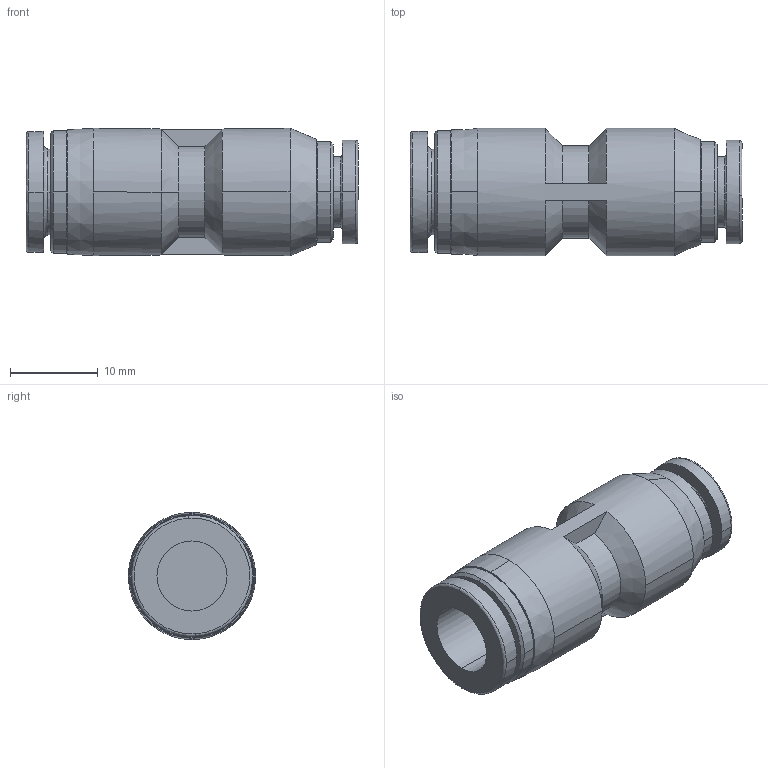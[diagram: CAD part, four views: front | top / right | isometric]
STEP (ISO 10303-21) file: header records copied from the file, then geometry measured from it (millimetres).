
FILE_DESCRIPTION (( 'STEP AP214' ), '1' );
FILE_NAME ('APG8-6.STEP', '2019-12-05T08:28:32', ( '微软用户' ), ( '微软中国' ), 'SwSTEP 2.0', 'SolidWorks 2016', '' );
FILE_SCHEMA (( 'AUTOMOTIVE_DESIGN' ));
Length unit declared in the file: millimetre
Products named in the file (1): APG8-6
Bounding box: 37.85 x 14.5 x 14.5 mm (x, y, z)
Volume: 3944.8 mm3; surface area: 2971.5 mm2
Topology: 1 solids, 1 shells, 62 faces, 159 edges, 107 vertices
Faces by surface type: cylinder 21, cone 19, plane 14, bspline 8
Entity records: 2392 total; most frequent: CARTESIAN_POINT 839, DIRECTION 336, ORIENTED_EDGE 318, EDGE_CURVE 159, AXIS2_PLACEMENT_3D 148, VERTEX_POINT 107, CIRCLE 93, EDGE_LOOP 70
